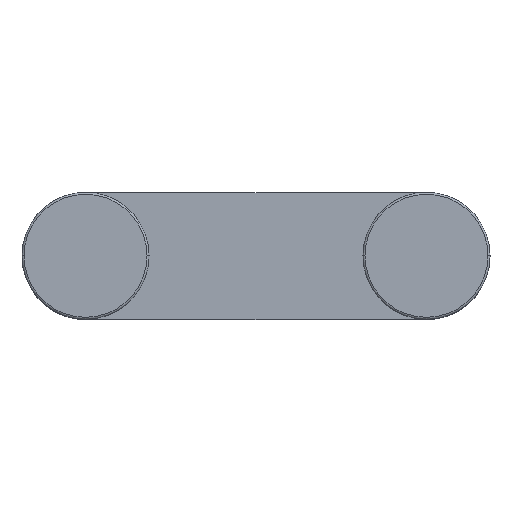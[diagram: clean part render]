
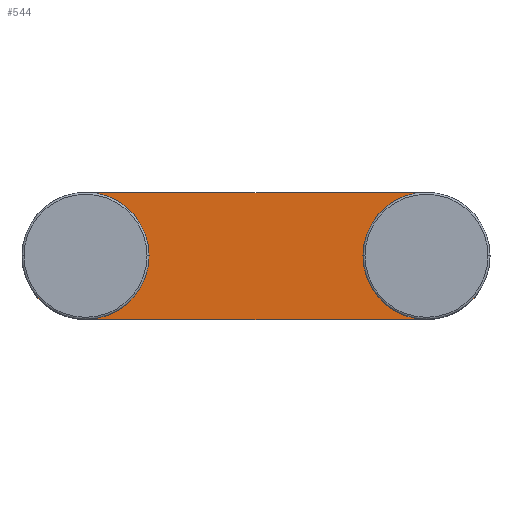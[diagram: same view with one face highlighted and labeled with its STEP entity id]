
A CAD part, top view. The second image highlights one B-rep face of the part: STEP entity #544.
In plain terms, the highlighted planar face has unit normal (0, 0, 1).
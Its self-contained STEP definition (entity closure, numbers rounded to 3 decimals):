
#1 = CARTESIAN_POINT ( 'NONE',  ( -34.13, 18.542, 1.411 ) ) ;
#17 = LINE ( 'NONE', #1, #690 ) ;
#23 = VERTEX_POINT ( 'NONE', #618 ) ;
#38 = AXIS2_PLACEMENT_3D ( 'NONE', #1063, #70, #896 ) ;
#47 = PLANE ( 'NONE',  #386 ) ;
#68 = ORIENTED_EDGE ( 'NONE', *, *, #258, .T. ) ;
#70 = DIRECTION ( 'NONE',  ( 0., 0., 1. ) ) ;
#71 = AXIS2_PLACEMENT_3D ( 'NONE', #207, #389, #126 ) ;
#98 = DIRECTION ( 'NONE',  ( 1., 0., 0. ) ) ;
#116 = DIRECTION ( 'NONE',  ( 1., 0., 0. ) ) ;
#126 = DIRECTION ( 'NONE',  ( 1., 0., 0. ) ) ;
#138 = AXIS2_PLACEMENT_3D ( 'NONE', #175, #656, #98 ) ;
#154 = VECTOR ( 'NONE', #685, 1000. ) ;
#163 = DIRECTION ( 'NONE',  ( 1., 0., 0. ) ) ;
#173 = CARTESIAN_POINT ( 'NONE',  ( 16.87, 9.042, 1.411 ) ) ;
#175 = CARTESIAN_POINT ( 'NONE',  ( -34.13, 9.042, 1.411 ) ) ;
#183 = EDGE_CURVE ( 'NONE', #334, #1017, #1130, .T. ) ;
#201 = DIRECTION ( 'NONE',  ( 0., 0., 1. ) ) ;
#207 = CARTESIAN_POINT ( 'NONE',  ( -34.13, 9.042, 1.411 ) ) ;
#258 = EDGE_CURVE ( 'NONE', #457, #357, #1171, .T. ) ;
#259 = CARTESIAN_POINT ( 'NONE',  ( -31.53, 9.042, 1.411 ) ) ;
#266 = FACE_OUTER_BOUND ( 'NONE', #978, .T. ) ;
#267 = ORIENTED_EDGE ( 'NONE', *, *, #467, .T. ) ;
#289 = CARTESIAN_POINT ( 'NONE',  ( 19.47, 9.042, 1.411 ) ) ;
#292 = AXIS2_PLACEMENT_3D ( 'NONE', #173, #927, #813 ) ;
#301 = EDGE_CURVE ( 'NONE', #23, #1161, #1142, .T. ) ;
#302 = CARTESIAN_POINT ( 'NONE',  ( 16.87, 18.542, 1.411 ) ) ;
#334 = VERTEX_POINT ( 'NONE', #559 ) ;
#357 = VERTEX_POINT ( 'NONE', #383 ) ;
#365 = FACE_BOUND ( 'NONE', #393, .T. ) ;
#379 = ORIENTED_EDGE ( 'NONE', *, *, #1035, .F. ) ;
#383 = CARTESIAN_POINT ( 'NONE',  ( -43.63, 9.042, 1.411 ) ) ;
#384 = CARTESIAN_POINT ( 'NONE',  ( -34.13, 9.042, 1.411 ) ) ;
#386 = AXIS2_PLACEMENT_3D ( 'NONE', #763, #869, #861 ) ;
#389 = DIRECTION ( 'NONE',  ( 0., 0., 1. ) ) ;
#393 = EDGE_LOOP ( 'NONE', ( #846, #379 ) ) ;
#405 = CARTESIAN_POINT ( 'NONE',  ( -34.13, 9.042, 1.411 ) ) ;
#434 = CARTESIAN_POINT ( 'NONE',  ( 16.87, 9.042, 1.411 ) ) ;
#457 = VERTEX_POINT ( 'NONE', #470 ) ;
#467 = EDGE_CURVE ( 'NONE', #988, #23, #875, .T. ) ;
#470 = CARTESIAN_POINT ( 'NONE',  ( -34.13, 18.542, 1.411 ) ) ;
#500 = DIRECTION ( 'NONE',  ( 1., 0., 0. ) ) ;
#523 = ORIENTED_EDGE ( 'NONE', *, *, #183, .F. ) ;
#542 = EDGE_CURVE ( 'NONE', #357, #988, #812, .T. ) ;
#544 = ADVANCED_FACE ( 'NONE', ( #365, #1069, #266 ), #47, .T. ) ;
#559 = CARTESIAN_POINT ( 'NONE',  ( 14.27, 9.042, 1.411 ) ) ;
#618 = CARTESIAN_POINT ( 'NONE',  ( 16.87, -0.458, 1.411 ) ) ;
#639 = CIRCLE ( 'NONE', #1138, 2.6 ) ;
#656 = DIRECTION ( 'NONE',  ( 0., 0., 1. ) ) ;
#685 = DIRECTION ( 'NONE',  ( 1., 0., 0. ) ) ;
#690 = VECTOR ( 'NONE', #830, 1000. ) ;
#693 = CARTESIAN_POINT ( 'NONE',  ( -34.13, -0.458, 1.411 ) ) ;
#719 = DIRECTION ( 'NONE',  ( 0., 0., 1. ) ) ;
#763 = CARTESIAN_POINT ( 'NONE',  ( -34.13, 9.042, 1.411 ) ) ;
#770 = VERTEX_POINT ( 'NONE', #1182 ) ;
#785 = VERTEX_POINT ( 'NONE', #259 ) ;
#804 = EDGE_CURVE ( 'NONE', #1017, #334, #810, .T. ) ;
#810 = CIRCLE ( 'NONE', #979, 2.6 ) ;
#812 = CIRCLE ( 'NONE', #71, 9.5 ) ;
#813 = DIRECTION ( 'NONE',  ( -1., 0., 0. ) ) ;
#830 = DIRECTION ( 'NONE',  ( -1., 0., 0. ) ) ;
#846 = ORIENTED_EDGE ( 'NONE', *, *, #993, .F. ) ;
#861 = DIRECTION ( 'NONE',  ( 1., 0., 0. ) ) ;
#869 = DIRECTION ( 'NONE',  ( 0., 0., 1. ) ) ;
#875 = LINE ( 'NONE', #693, #154 ) ;
#879 = EDGE_CURVE ( 'NONE', #1161, #457, #17, .T. ) ;
#893 = ORIENTED_EDGE ( 'NONE', *, *, #542, .T. ) ;
#895 = AXIS2_PLACEMENT_3D ( 'NONE', #405, #964, #500 ) ;
#896 = DIRECTION ( 'NONE',  ( 1., 0., 0. ) ) ;
#914 = EDGE_LOOP ( 'NONE', ( #1068, #523 ) ) ;
#926 = ORIENTED_EDGE ( 'NONE', *, *, #879, .T. ) ;
#927 = DIRECTION ( 'NONE',  ( 0., 0., 1. ) ) ;
#937 = CARTESIAN_POINT ( 'NONE',  ( -34.13, -0.458, 1.411 ) ) ;
#964 = DIRECTION ( 'NONE',  ( 0., 0., 1. ) ) ;
#978 = EDGE_LOOP ( 'NONE', ( #68, #893, #267, #1072, #926 ) ) ;
#979 = AXIS2_PLACEMENT_3D ( 'NONE', #434, #719, #163 ) ;
#988 = VERTEX_POINT ( 'NONE', #937 ) ;
#993 = EDGE_CURVE ( 'NONE', #785, #770, #639, .T. ) ;
#1017 = VERTEX_POINT ( 'NONE', #289 ) ;
#1031 = CIRCLE ( 'NONE', #895, 2.6 ) ;
#1035 = EDGE_CURVE ( 'NONE', #770, #785, #1031, .T. ) ;
#1063 = CARTESIAN_POINT ( 'NONE',  ( 16.87, 9.042, 1.411 ) ) ;
#1068 = ORIENTED_EDGE ( 'NONE', *, *, #804, .F. ) ;
#1069 = FACE_BOUND ( 'NONE', #914, .T. ) ;
#1072 = ORIENTED_EDGE ( 'NONE', *, *, #301, .T. ) ;
#1130 = CIRCLE ( 'NONE', #38, 2.6 ) ;
#1138 = AXIS2_PLACEMENT_3D ( 'NONE', #384, #201, #116 ) ;
#1142 = CIRCLE ( 'NONE', #292, 9.5 ) ;
#1161 = VERTEX_POINT ( 'NONE', #302 ) ;
#1171 = CIRCLE ( 'NONE', #138, 9.5 ) ;
#1182 = CARTESIAN_POINT ( 'NONE',  ( -36.73, 9.042, 1.411 ) ) ;
